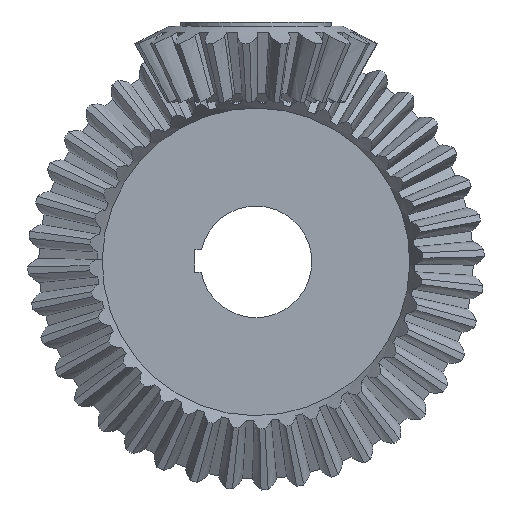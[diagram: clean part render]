
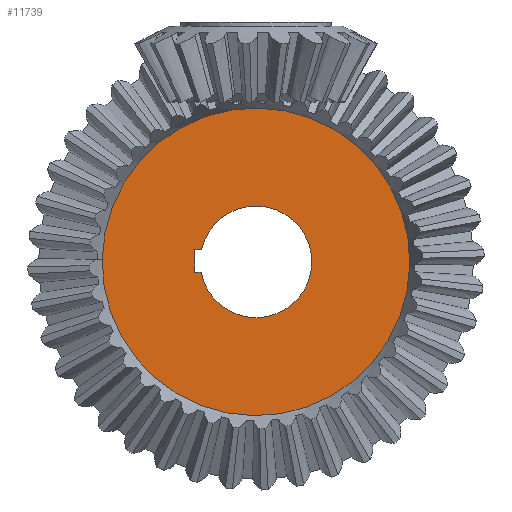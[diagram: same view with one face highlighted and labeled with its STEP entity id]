
A CAD part, left-side view. The second image highlights one B-rep face of the part: STEP entity #11739.
In plain terms, the highlighted planar face has unit normal (-1, 0, 0).
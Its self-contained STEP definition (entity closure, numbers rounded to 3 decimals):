
#9195=CARTESIAN_POINT('',(-20.,0.,0.));
#9196=DIRECTION('',(-1.,0.,0.));
#9197=DIRECTION('',(0.,1.,0.));
#9198=AXIS2_PLACEMENT_3D('',#9195,#9196,#9197);
#9200=CARTESIAN_POINT('',(-20.,0.,0.));
#9201=DIRECTION('',(1.,0.,0.));
#9202=DIRECTION('',(0.,1.,0.));
#9203=AXIS2_PLACEMENT_3D('',#9200,#9201,#9202);
#9205=DIRECTION('',(0.,0.,-1.));
#9206=VECTOR('',#9205,10.);
#9207=CARTESIAN_POINT('',(-20.,27.5,5.));
#9208=LINE('',#9207,#9206);
#9209=DIRECTION('',(0.,-1.,0.));
#9210=VECTOR('',#9209,3.005);
#9211=CARTESIAN_POINT('',(-20.,27.5,-5.));
#9212=LINE('',#9211,#9210);
#9213=DIRECTION('',(0.,1.,0.));
#9214=VECTOR('',#9213,3.005);
#9215=CARTESIAN_POINT('',(-20.,24.495,5.));
#9216=LINE('',#9215,#9214);
#9221=CARTESIAN_POINT('',(-20.,0.,0.));
#9222=DIRECTION('',(1.,0.,0.));
#9223=DIRECTION('',(0.,0.98,0.2));
#9224=AXIS2_PLACEMENT_3D('',#9221,#9222,#9223);
#10104=CARTESIAN_POINT('',(-20.,68.912,0.));
#10105=VERTEX_POINT('',#10104);
#10106=CARTESIAN_POINT('',(-20.,-68.912,0.));
#10107=VERTEX_POINT('',#10106);
#10108=CARTESIAN_POINT('',(-20.,27.5,5.));
#10109=CARTESIAN_POINT('',(-20.,27.5,-5.));
#10110=VERTEX_POINT('',#10108);
#10111=VERTEX_POINT('',#10109);
#10112=CARTESIAN_POINT('',(-20.,24.495,-5.));
#10113=VERTEX_POINT('',#10112);
#10114=CARTESIAN_POINT('',(-20.,24.495,5.));
#10115=VERTEX_POINT('',#10114);
#11720=CARTESIAN_POINT('',(-20.,0.,0.));
#11721=DIRECTION('',(1.,0.,0.));
#11722=DIRECTION('',(0.,-1.,0.));
#11723=AXIS2_PLACEMENT_3D('',#11720,#11721,#11722);
#11724=PLANE('',#11723);
#11725=ORIENTED_EDGE('',*,*,#11409,.F.);
#11726=ORIENTED_EDGE('',*,*,#11256,.T.);
#11727=EDGE_LOOP('',(#11725,#11726));
#11728=FACE_OUTER_BOUND('',#11727,.F.);
#11730=ORIENTED_EDGE('',*,*,#11729,.T.);
#11732=ORIENTED_EDGE('',*,*,#11731,.T.);
#11734=ORIENTED_EDGE('',*,*,#11733,.F.);
#11736=ORIENTED_EDGE('',*,*,#11735,.T.);
#11737=EDGE_LOOP('',(#11730,#11732,#11734,#11736));
#11738=FACE_BOUND('',#11737,.F.);
#9199=CIRCLE('',#9198,68.912);
#9204=CIRCLE('',#9203,68.912);
#9225=CIRCLE('',#9224,25.);
#11256=EDGE_CURVE('',#10105,#10107,#9204,.T.);
#11409=EDGE_CURVE('',#10105,#10107,#9199,.T.);
#11729=EDGE_CURVE('',#10110,#10111,#9208,.T.);
#11731=EDGE_CURVE('',#10111,#10113,#9212,.T.);
#11733=EDGE_CURVE('',#10115,#10113,#9225,.T.);
#11735=EDGE_CURVE('',#10115,#10110,#9216,.T.);
#11739=ADVANCED_FACE('',(#11728,#11738),#11724,.F.);
